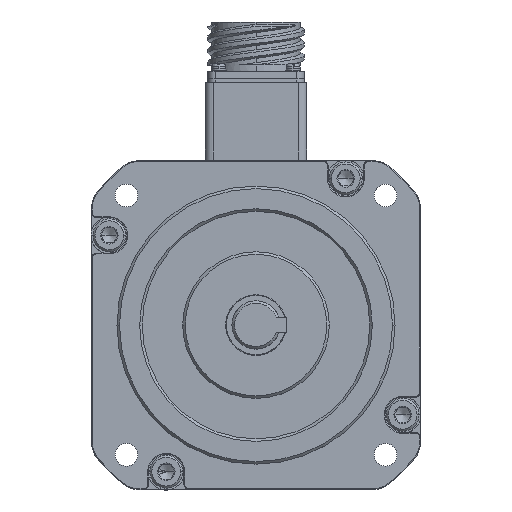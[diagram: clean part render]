
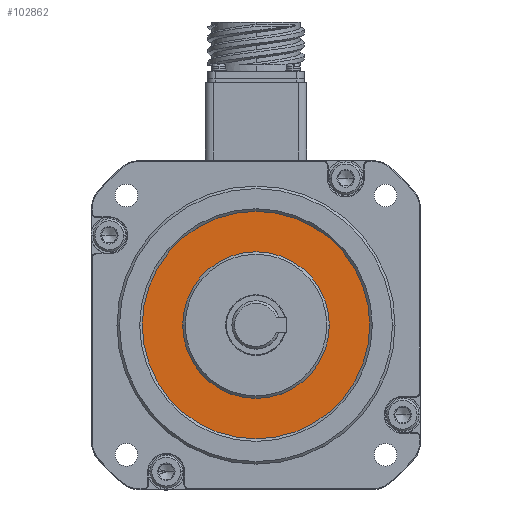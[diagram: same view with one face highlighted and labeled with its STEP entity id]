
A CAD part, top view. The second image highlights one B-rep face of the part: STEP entity #102862.
In plain terms, the highlighted planar face has unit normal (0, 0, 1).
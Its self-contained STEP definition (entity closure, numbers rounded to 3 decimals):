
#2858 = CARTESIAN_POINT ( 'NONE',  ( 50., 50., 0. ) ) ;
#8348 = AXIS2_PLACEMENT_3D ( 'NONE', #2858, #89064, #15266 ) ;
#8834 = EDGE_LOOP ( 'NONE', ( #64478, #129528 ) ) ;
#14272 = DIRECTION ( 'NONE',  ( 0., 0., -1. ) ) ;
#15266 = DIRECTION ( 'NONE',  ( -1., 0., 0. ) ) ;
#21270 = CIRCLE ( 'NONE', #8348, 45. ) ;
#34301 = DIRECTION ( 'NONE',  ( 0., 0., 1. ) ) ;
#37163 = PLANE ( 'NONE',  #116863 ) ;
#39377 = FACE_BOUND ( 'NONE', #64813, .T. ) ;
#42161 = DIRECTION ( 'NONE',  ( 0., 0., -1. ) ) ;
#44624 = CARTESIAN_POINT ( 'NONE',  ( 79., 50., 0. ) ) ;
#46462 = AXIS2_PLACEMENT_3D ( 'NONE', #108009, #34301, #120305 ) ;
#47411 = CIRCLE ( 'NONE', #46462, 45. ) ;
#50051 = EDGE_CURVE ( 'NONE', #74528, #63242, #47411, .T. ) ;
#53307 = AXIS2_PLACEMENT_3D ( 'NONE', #88114, #14272, #100517 ) ;
#54910 = ORIENTED_EDGE ( 'NONE', *, *, #65726, .T. ) ;
#55308 = VERTEX_POINT ( 'NONE', #44624 ) ;
#55343 = VERTEX_POINT ( 'NONE', #145025 ) ;
#61915 = DIRECTION ( 'NONE',  ( 1., 0., 0. ) ) ;
#63242 = VERTEX_POINT ( 'NONE', #113382 ) ;
#64478 = ORIENTED_EDGE ( 'NONE', *, *, #50051, .T. ) ;
#64813 = EDGE_LOOP ( 'NONE', ( #54910, #141111 ) ) ;
#65726 = EDGE_CURVE ( 'NONE', #55308, #55343, #79739, .T. ) ;
#67444 = AXIS2_PLACEMENT_3D ( 'NONE', #115811, #42161, #128147 ) ;
#73705 = CARTESIAN_POINT ( 'NONE',  ( 109.85, 50., 0. ) ) ;
#74528 = VERTEX_POINT ( 'NONE', #134796 ) ;
#79739 = CIRCLE ( 'NONE', #67444, 29. ) ;
#82303 = EDGE_CURVE ( 'NONE', #55343, #55308, #114899, .T. ) ;
#88114 = CARTESIAN_POINT ( 'NONE',  ( 50., 50., 0. ) ) ;
#89064 = DIRECTION ( 'NONE',  ( 0., 0., 1. ) ) ;
#89157 = EDGE_CURVE ( 'NONE', #63242, #74528, #21270, .T. ) ;
#100517 = DIRECTION ( 'NONE',  ( 1., 0., 0. ) ) ;
#102862 = ADVANCED_FACE ( 'NONE', ( #137383, #39377 ), #37163, .T. ) ;
#108009 = CARTESIAN_POINT ( 'NONE',  ( 50., 50., 0. ) ) ;
#113382 = CARTESIAN_POINT ( 'NONE',  ( 95., 50., 0. ) ) ;
#114899 = CIRCLE ( 'NONE', #53307, 29. ) ;
#115811 = CARTESIAN_POINT ( 'NONE',  ( 50., 50., 0. ) ) ;
#116863 = AXIS2_PLACEMENT_3D ( 'NONE', #73705, #135444, #61915 ) ;
#120305 = DIRECTION ( 'NONE',  ( -1., 0., 0. ) ) ;
#128147 = DIRECTION ( 'NONE',  ( 1., 0., 0. ) ) ;
#129528 = ORIENTED_EDGE ( 'NONE', *, *, #89157, .T. ) ;
#134796 = CARTESIAN_POINT ( 'NONE',  ( 5., 50., 0. ) ) ;
#135444 = DIRECTION ( 'NONE',  ( 0., 0., 1. ) ) ;
#137383 = FACE_OUTER_BOUND ( 'NONE', #8834, .T. ) ;
#141111 = ORIENTED_EDGE ( 'NONE', *, *, #82303, .T. ) ;
#145025 = CARTESIAN_POINT ( 'NONE',  ( 21., 50., 0. ) ) ;
